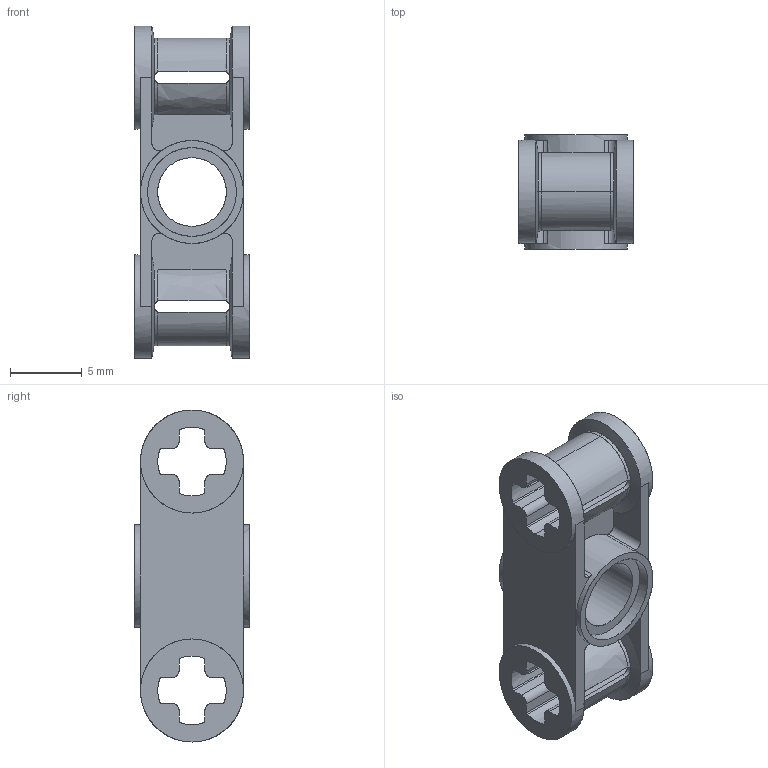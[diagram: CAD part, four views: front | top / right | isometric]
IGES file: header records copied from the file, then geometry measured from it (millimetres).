
Start section: C
Global section: file name: ClGray_4211621_MCM.iges; native system: By Siemens PLM Incorporated; preprocessor: XPlus GENERIC/IGES 26.1.183; author: Author; organization: Title; date: 20250721.235136; units: millimetre
Bounding box: 8 x 8 x 23.2 mm (x, y, z)
Surface area: 1205.6 mm2 (no closed solid volume)
Topology: 0 solids, 0 shells, 141 faces, 878 edges, 878 vertices
Faces by surface type: bspline 141
